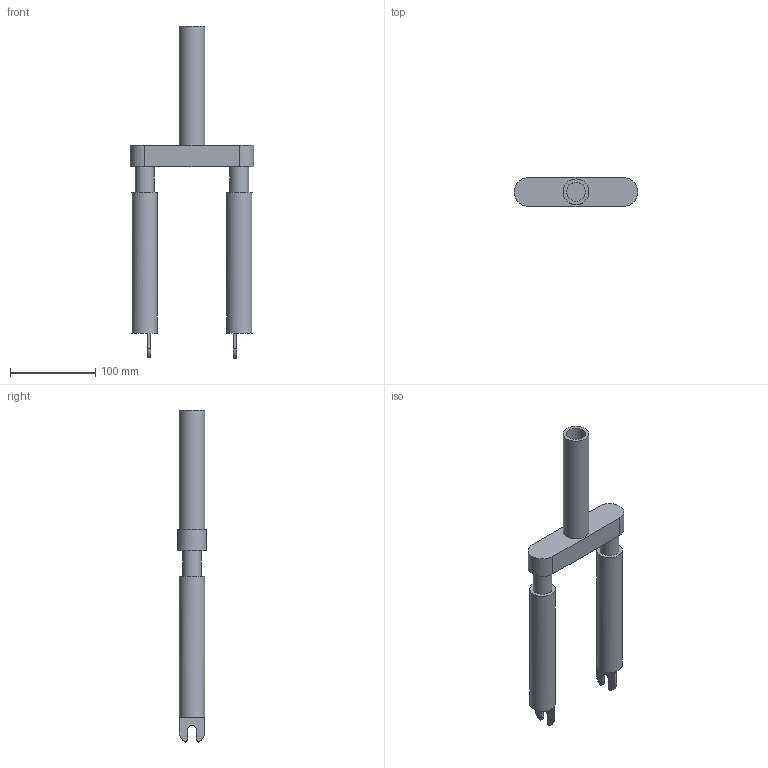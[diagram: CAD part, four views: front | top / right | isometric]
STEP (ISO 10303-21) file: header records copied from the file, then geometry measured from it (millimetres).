
FILE_DESCRIPTION(/* description */ ('STEP AP242','CAx-IF Rec.Pracs.---Representation and Presentation of Product Manufacturing Information (PMI)---4.0---2014-10-13','CAx-IF Rec.Pracs.---3D Tessellated Geometry---0.4---2014-09-14','2;1'),/* implementation_level */ '2;1');
FILE_NAME(/* name */ 'Assembly 1 - Part 1 (2)',/* time_stamp */ '2025-05-18T07:24:53Z',/* author */ (''),/* organization */ (''),/* preprocessor_version */ 'ST-DEVELOPER v20',/* originating_system */ 'ONSHAPE BY PTC INC, 1.198',/* authorisation */ ' ');
FILE_SCHEMA (('AP242_MANAGED_MODEL_BASED_3D_ENGINEERING_MIM_LF { 1 0 10303 442 1 1 4 }'));
Length unit declared in the file: metre
Products named in the file (1): Part 1
Bounding box: 145 x 34 x 389.21 mm (x, y, z)
Volume: 423768.2 mm3; surface area: 80122.6 mm2
Topology: 1 solids, 1 shells, 42 faces, 98 edges, 64 vertices
Faces by surface type: plane 24, cylinder 16, torus 2
Full cylindrical faces by diameter (mm): 22 x3, 30 x3
Entity records: 1200 total; most frequent: CARTESIAN_POINT 225, DIRECTION 208, ORIENTED_EDGE 180, EDGE_CURVE 90, AXIS2_PLACEMENT_3D 81, VERTEX_POINT 62, EDGE_LOOP 54, FACE_BOUND 54
